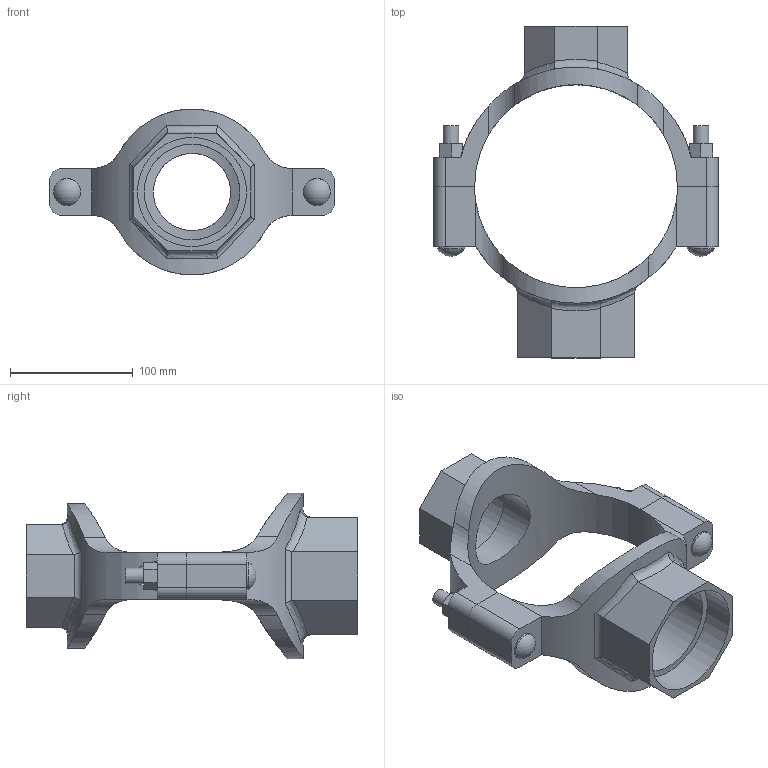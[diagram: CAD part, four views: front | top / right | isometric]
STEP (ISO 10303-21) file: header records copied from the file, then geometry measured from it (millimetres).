
FILE_DESCRIPTION(/* description */ ('VIC MECH-T BRANCH OUTLET CROSS STYLE 920N (THD)','CAx-IF Rec.Pracs.---Representation and Presentation of Product Manufacturing Information (PMI)---4.0---2014-10-13'),/* implementation_level */ '2;1');
FILE_NAME(/* name */ 'C:\Users\Vjadhav\AppData\Roaming\Autodesk\ApplicationPlugins\Back Up\Victaulic_IPS_Mechanical-Cross Outlet_Style 920N (FPT)\Victaulic_IPS_Mechanical-Cross Outlet_06.0 (165.1)x02.5x03.0 (150x65x80).stp',/* time_stamp */ '2020-08-06T19:00:25+06:00',/* author */ ('Vjadhav'),/* organization */ ('Victaulic'),/* preprocessor_version */ 'ST-DEVELOPER v17.2',/* originating_system */ 'Autodesk Inventor 2019',/* authorisation */ '');
FILE_SCHEMA (('AP242_MANAGED_MODEL_BASED_3D_ENGINEERING_MIM_LF { 1 0 10303 442 1 1 4 }'));
Length unit declared in the file: inch
Products named in the file (3): 920NT-06.0 (165.1)x02.5x03.0; 920NT-06.0 (165.1)x02.5x02.5 (76.1); 920T-06.0 (165.1)x03.0
Assembly tree (2 placements, depth 2):
  920NT-06.0 (165.1)x02.5x03.0
    920NT-06.0 (165.1)x02.5x02.5 (76.1)
    920T-06.0 (165.1)x03.0
Bounding box: 231.9 x 270 x 134.87 mm (x, y, z)
Volume: 710021.7 mm3; surface area: 163354.8 mm2
Topology: 2 solids, 2 shells, 130 faces, 344 edges, 232 vertices
Faces by surface type: plane 68, cylinder 48, bspline 8, torus 4, sphere 2
Full cylindrical faces by diameter (mm): 12.7 x4, 21.982 x2, 62.738 x1, 73.025 x1, 77.787 x1, 88.9 x1
Entity records: 5248 total; most frequent: CARTESIAN_POINT 1789, ORIENTED_EDGE 688, DIRECTION 638, EDGE_CURVE 344, VERTEX_POINT 232, AXIS2_PLACEMENT_3D 227, LINE 184, VECTOR 184
